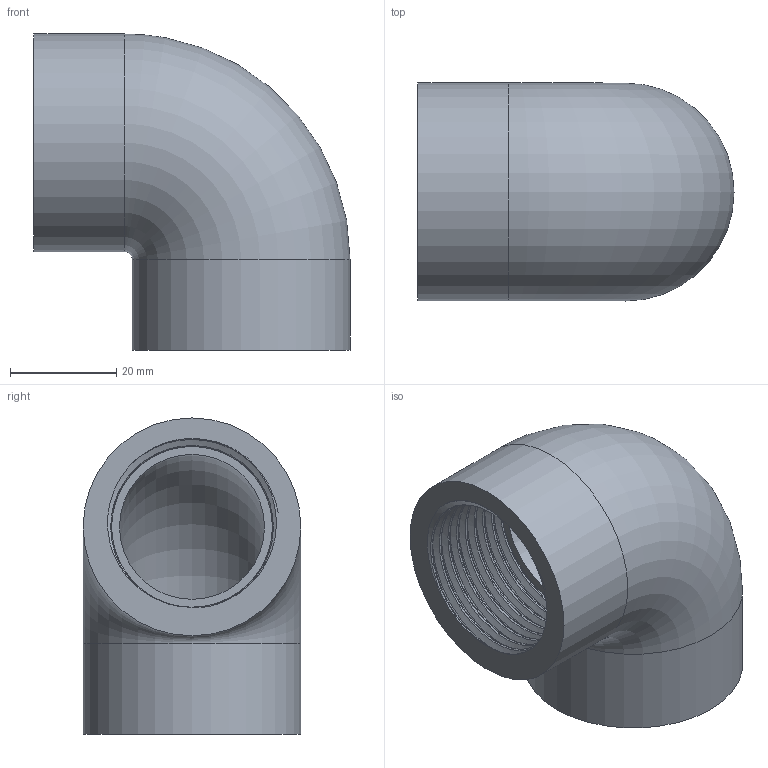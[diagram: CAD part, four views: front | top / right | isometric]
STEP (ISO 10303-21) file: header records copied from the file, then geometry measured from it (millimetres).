
FILE_DESCRIPTION(/* description */ ('PVC gomito a 90° filettato BSP femmina'),/* implementation_level */ '2;1');
FILE_NAME(/* name */ 'C:\Users\POLYPIPE\Desktop\DATASET INVENTOR\LIBRERIA EFFAST\RACCORDI 3DxWEB\RER\3D_RERGOE\3D_RERGOE032D.stp',/* time_stamp */ '2018-01-19T16:17:59+01:00',/* author */ ('POLYPIPE'),/* organization */ ('Polypipe Italia s.r.l.'),/* preprocessor_version */ 'ST-DEVELOPER v16.1',/* originating_system */ 'Autodesk Inventor 2016',/* authorisation */ '');
FILE_SCHEMA (('CONFIG_CONTROL_DESIGN'));
Length unit declared in the file: millimetre
Products named in the file (1): 3D_RERGOE
Bounding box: 59.5 x 41 x 59.5 mm (x, y, z)
Volume: 41790.6 mm3; surface area: 20009.7 mm2
Topology: 1 solids, 1 shells, 22 faces, 48 edges, 30 vertices
Faces by surface type: bspline 10, plane 6, cylinder 4, torus 2
Full cylindrical faces by diameter (mm): 41 x2
Entity records: 7306 total; most frequent: CARTESIAN_POINT 6871, ORIENTED_EDGE 92, DIRECTION 60, EDGE_CURVE 44, EDGE_LOOP 30, VERTEX_POINT 30, AXIS2_PLACEMENT_3D 27, B_SPLINE_CURVE_WITH_KNOTS 24
